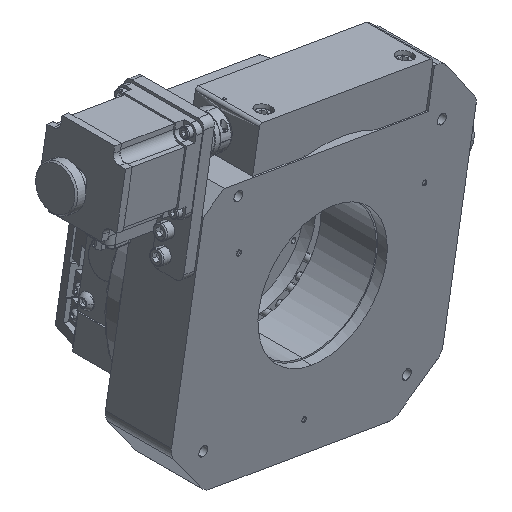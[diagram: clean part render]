
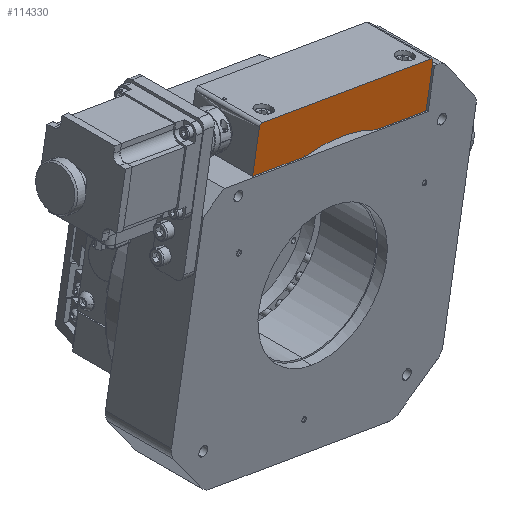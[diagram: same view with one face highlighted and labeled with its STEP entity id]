
A CAD part, isometric view. The second image highlights one B-rep face of the part: STEP entity #114330.
In plain terms, the highlighted planar face has unit normal (0, 1, 0).
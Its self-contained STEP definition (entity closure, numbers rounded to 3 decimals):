
#2091 = CARTESIAN_POINT ( 'NONE',  ( 63., 1., 112.362 ) ) ;
#2910 = ORIENTED_EDGE ( 'NONE', *, *, #95375, .F. ) ;
#3981 = CARTESIAN_POINT ( 'NONE',  ( -65., 1., 102.433 ) ) ;
#7205 = ORIENTED_EDGE ( 'NONE', *, *, #100283, .F. ) ;
#8541 = EDGE_CURVE ( 'NONE', #83656, #17476, #115254, .T. ) ;
#11283 = CARTESIAN_POINT ( 'NONE',  ( 63., 1., 112.1 ) ) ;
#11691 = B_SPLINE_CURVE_WITH_KNOTS ( 'NONE', 3,
 ( #39712, #94339, #112610, #58061 ),
 .UNSPECIFIED., .F., .F.,
 ( 4, 4 ),
 ( -1., 0. ),
 .UNSPECIFIED. ) ;
#12238 = CARTESIAN_POINT ( 'NONE',  ( -52.026, 1., 83.1 ) ) ;
#13174 = CARTESIAN_POINT ( 'NONE',  ( -65., 1., 112.1 ) ) ;
#13569 = VERTEX_POINT ( 'NONE', #65603 ) ;
#17423 = PLANE ( 'NONE',  #97298 ) ;
#17476 = VERTEX_POINT ( 'NONE', #36323 ) ;
#18566 = CARTESIAN_POINT ( 'NONE',  ( -8.828, 1., 86.763 ) ) ;
#20477 = CARTESIAN_POINT ( 'NONE',  ( 62.599, 1., 113.329 ) ) ;
#21444 = CARTESIAN_POINT ( 'NONE',  ( -39.051, 1., 83.1 ) ) ;
#21940 = B_SPLINE_CURVE_WITH_KNOTS ( 'NONE', 3,
 ( #49370, #113110, #76925, #22270, #86031, #31419, #95246, #40608, #104394, #49775 ),
 .UNSPECIFIED., .F., .F.,
 ( 4, 2, 2, 2, 4 ),
 ( 0., 0.25, 0.5, 0.75, 1. ),
 .UNSPECIFIED. ) ;
#22270 = CARTESIAN_POINT ( 'NONE',  ( -64.007, 1., 113.848 ) ) ;
#27022 = CARTESIAN_POINT ( 'NONE',  ( 63., 1., 114.1 ) ) ;
#27740 = CARTESIAN_POINT ( 'NONE',  ( 4.414, 1., 87.1 ) ) ;
#29635 = CARTESIAN_POINT ( 'NONE',  ( 62.007, 1., 113.848 ) ) ;
#29890 = CARTESIAN_POINT ( 'NONE',  ( 61., 1., 114.1 ) ) ;
#31419 = CARTESIAN_POINT ( 'NONE',  ( -64.599, 1., 113.329 ) ) ;
#31553 = CARTESIAN_POINT ( 'NONE',  ( -65., 1., 92.767 ) ) ;
#31657 = ORIENTED_EDGE ( 'NONE', *, *, #105679, .F. ) ;
#33856 = B_SPLINE_CURVE_WITH_KNOTS ( 'NONE', 3,
 ( #13174, #3981, #31553, #95371 ),
 .UNSPECIFIED., .F., .F.,
 ( 4, 4 ),
 ( 0., 1. ),
 .UNSPECIFIED. ) ;
#34605 = B_SPLINE_CURVE_WITH_KNOTS ( 'NONE', 3,
 ( #109422, #45689, #73225, #18566, #82373, #27740, #91527, #36899, #100710, #46073 ),
 .UNSPECIFIED., .F., .F.,
 ( 4, 2, 2, 2, 4 ),
 ( 0., 0.25, 0.5, 0.75, 1. ),
 .UNSPECIFIED. ) ;
#36150 = DIRECTION ( 'NONE',  ( -1., 0., 0. ) ) ;
#36323 = CARTESIAN_POINT ( 'NONE',  ( 61., 1., 114.1 ) ) ;
#36899 = CARTESIAN_POINT ( 'NONE',  ( 17.554, 1., 85.425 ) ) ;
#38800 = CARTESIAN_POINT ( 'NONE',  ( 61.262, 1., 114.1 ) ) ;
#38858 = CARTESIAN_POINT ( 'NONE',  ( -65., 1., 83.1 ) ) ;
#39479 = CARTESIAN_POINT ( 'NONE',  ( -21.667, 1., 114.1 ) ) ;
#39712 = CARTESIAN_POINT ( 'NONE',  ( 26.077, 1., 83.1 ) ) ;
#39910 = FACE_OUTER_BOUND ( 'NONE', #108949, .T. ) ;
#40608 = CARTESIAN_POINT ( 'NONE',  ( -64.948, 1., 112.623 ) ) ;
#42744 = CARTESIAN_POINT ( 'NONE',  ( 63., 1., 83.1 ) ) ;
#44901 = ORIENTED_EDGE ( 'NONE', *, *, #90589, .F. ) ;
#45689 = CARTESIAN_POINT ( 'NONE',  ( -21.866, 1., 84.423 ) ) ;
#46073 = CARTESIAN_POINT ( 'NONE',  ( 26.077, 1., 83.1 ) ) ;
#49370 = CARTESIAN_POINT ( 'NONE',  ( -63., 1., 114.1 ) ) ;
#49775 = CARTESIAN_POINT ( 'NONE',  ( -65., 1., 112.1 ) ) ;
#50894 = VERTEX_POINT ( 'NONE', #75707 ) ;
#56783 = CARTESIAN_POINT ( 'NONE',  ( 62.948, 1., 112.623 ) ) ;
#57418 = CARTESIAN_POINT ( 'NONE',  ( 19.667, 1., 114.1 ) ) ;
#58061 = CARTESIAN_POINT ( 'NONE',  ( 63., 1., 83.1 ) ) ;
#58975 = B_SPLINE_CURVE_WITH_KNOTS ( 'NONE', 3,
 ( #29890, #57418, #39479, #103235 ),
 .UNSPECIFIED., .F., .F.,
 ( 4, 4 ),
 ( 0., 1. ),
 .UNSPECIFIED. ) ;
#59189 = CARTESIAN_POINT ( 'NONE',  ( 26.077, 1., 83.1 ) ) ;
#61095 = CARTESIAN_POINT ( 'NONE',  ( 63., 1., 112.1 ) ) ;
#65603 = CARTESIAN_POINT ( 'NONE',  ( -63., 1., 114.1 ) ) ;
#68298 = EDGE_CURVE ( 'NONE', #17476, #13569, #58975, .T. ) ;
#70849 = EDGE_CURVE ( 'NONE', #116097, #77599, #33856, .T. ) ;
#73225 = CARTESIAN_POINT ( 'NONE',  ( -17.554, 1., 85.425 ) ) ;
#74521 = ORIENTED_EDGE ( 'NONE', *, *, #115712, .F. ) ;
#75129 = CARTESIAN_POINT ( 'NONE',  ( 62.748, 1., 113.107 ) ) ;
#75707 = CARTESIAN_POINT ( 'NONE',  ( -26.077, 1., 83.1 ) ) ;
#76112 = CARTESIAN_POINT ( 'NONE',  ( -65., 1., 83.1 ) ) ;
#76925 = CARTESIAN_POINT ( 'NONE',  ( -63.523, 1., 114.048 ) ) ;
#77507 = ORIENTED_EDGE ( 'NONE', *, *, #68298, .F. ) ;
#77599 = VERTEX_POINT ( 'NONE', #38858 ) ;
#77974 = CARTESIAN_POINT ( 'NONE',  ( 63., 1., 112.1 ) ) ;
#79019 = CARTESIAN_POINT ( 'NONE',  ( 63., 1., 92.767 ) ) ;
#82373 = CARTESIAN_POINT ( 'NONE',  ( -4.414, 1., 87.1 ) ) ;
#83656 = VERTEX_POINT ( 'NONE', #77974 ) ;
#84248 = CARTESIAN_POINT ( 'NONE',  ( 62.229, 1., 113.699 ) ) ;
#85218 = CARTESIAN_POINT ( 'NONE',  ( -26.077, 1., 83.1 ) ) ;
#86031 = CARTESIAN_POINT ( 'NONE',  ( -64.229, 1., 113.699 ) ) ;
#90589 = EDGE_CURVE ( 'NONE', #117668, #83656, #116036, .T. ) ;
#90768 = DIRECTION ( 'NONE',  ( 0., -1., 0. ) ) ;
#91527 = CARTESIAN_POINT ( 'NONE',  ( 8.828, 1., 86.763 ) ) ;
#93104 = CARTESIAN_POINT ( 'NONE',  ( -65., 1., 112.1 ) ) ;
#93444 = CARTESIAN_POINT ( 'NONE',  ( 61.523, 1., 114.048 ) ) ;
#94339 = CARTESIAN_POINT ( 'NONE',  ( 38.385, 1., 83.1 ) ) ;
#94627 = ORIENTED_EDGE ( 'NONE', *, *, #8541, .F. ) ;
#95246 = CARTESIAN_POINT ( 'NONE',  ( -64.748, 1., 113.107 ) ) ;
#95371 = CARTESIAN_POINT ( 'NONE',  ( -65., 1., 83.1 ) ) ;
#95375 = EDGE_CURVE ( 'NONE', #77599, #50894, #102419, .T. ) ;
#97298 = AXIS2_PLACEMENT_3D ( 'NONE', #27022, #90768, #36150 ) ;
#100283 = EDGE_CURVE ( 'NONE', #50894, #100486, #34605, .T. ) ;
#100486 = VERTEX_POINT ( 'NONE', #59189 ) ;
#100710 = CARTESIAN_POINT ( 'NONE',  ( 21.866, 1., 84.423 ) ) ;
#102419 = B_SPLINE_CURVE_WITH_KNOTS ( 'NONE', 3,
 ( #76112, #12238, #21444, #85218 ),
 .UNSPECIFIED., .F., .F.,
 ( 4, 4 ),
 ( -1., 0. ),
 .UNSPECIFIED. ) ;
#102597 = CARTESIAN_POINT ( 'NONE',  ( 61., 1., 114.1 ) ) ;
#102976 = ORIENTED_EDGE ( 'NONE', *, *, #70849, .F. ) ;
#103235 = CARTESIAN_POINT ( 'NONE',  ( -63., 1., 114.1 ) ) ;
#104394 = CARTESIAN_POINT ( 'NONE',  ( -65., 1., 112.362 ) ) ;
#105679 = EDGE_CURVE ( 'NONE', #100486, #117668, #11691, .T. ) ;
#108949 = EDGE_LOOP ( 'NONE', ( #7205, #2910, #102976, #74521, #77507, #94627, #44901, #31657 ) ) ;
#109422 = CARTESIAN_POINT ( 'NONE',  ( -26.077, 1., 83.1 ) ) ;
#110126 = CARTESIAN_POINT ( 'NONE',  ( 63., 1., 83.1 ) ) ;
#112610 = CARTESIAN_POINT ( 'NONE',  ( 50.692, 1., 83.1 ) ) ;
#113110 = CARTESIAN_POINT ( 'NONE',  ( -63.262, 1., 114.1 ) ) ;
#114330 = ADVANCED_FACE ( 'NONE', ( #39910 ), #17423, .F. ) ;
#115254 = B_SPLINE_CURVE_WITH_KNOTS ( 'NONE', 3,
 ( #11283, #2091, #56783, #75129, #20477, #84248, #29635, #93444, #38800, #102597 ),
 .UNSPECIFIED., .F., .F.,
 ( 4, 2, 2, 2, 4 ),
 ( 0., 0.25, 0.5, 0.75, 1. ),
 .UNSPECIFIED. ) ;
#115625 = CARTESIAN_POINT ( 'NONE',  ( 63., 1., 102.433 ) ) ;
#115712 = EDGE_CURVE ( 'NONE', #13569, #116097, #21940, .T. ) ;
#116036 = B_SPLINE_CURVE_WITH_KNOTS ( 'NONE', 3,
 ( #42744, #79019, #115625, #61095 ),
 .UNSPECIFIED., .F., .F.,
 ( 4, 4 ),
 ( 0., 1. ),
 .UNSPECIFIED. ) ;
#116097 = VERTEX_POINT ( 'NONE', #93104 ) ;
#117668 = VERTEX_POINT ( 'NONE', #110126 ) ;
